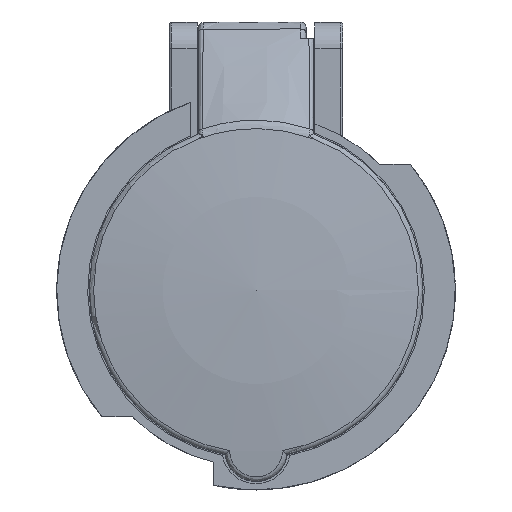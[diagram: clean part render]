
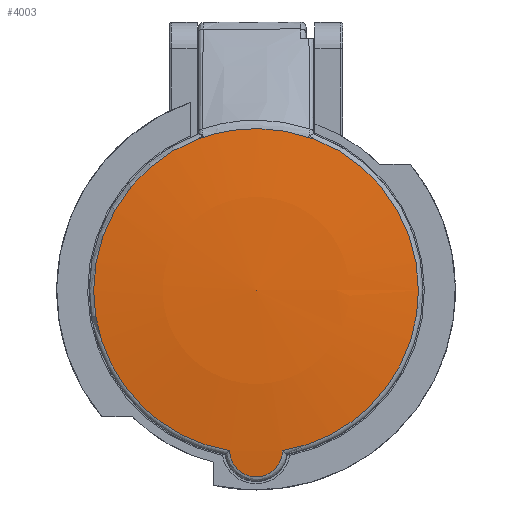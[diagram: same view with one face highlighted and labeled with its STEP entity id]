
A CAD part, top view. The second image highlights one B-rep face of the part: STEP entity #4003.
In plain terms, the highlighted spherical face has radius 253.016 mm.
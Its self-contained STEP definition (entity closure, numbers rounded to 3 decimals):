
#3593 = VERTEX_POINT('',#3594);
#3594 = CARTESIAN_POINT('',(-11.002,28.819,
    51.112));
#3601 = EDGE_CURVE('',#3602,#3593,#3604,.T.);
#3602 = VERTEX_POINT('',#3603);
#3603 = CARTESIAN_POINT('',(11.002,28.819,
    51.112));
#3604 = B_SPLINE_CURVE_WITH_KNOTS('',3,(#3605,#3606,#3607,#3608,#3609,
    #3610,#3611,#3612,#3613,#3614,#3615,#3616,#3617,#3618,#3619,#3620,
    #3621,#3622,#3623,#3624,#3625,#3626,#3627,#3628,#3629,#3630,#3631,
    #3632,#3633,#3634,#3635,#3636,#3637,#3638,#3639,#3640,#3641,#3642,
    #3643,#3644,#3645,#3646,#3647,#3648,#3649,#3650,#3651,#3652,#3653,
    #3654,#3655,#3656,#3657,#3658,#3659,#3660,#3661,#3662),
  .UNSPECIFIED.,.F.,.F.,(4,2,2,2,1,2,2,2,2,2,2,2,2,1,1,2,2,2,2,2,2,2,2,1
    ,2,2,2,2,2,2,4),(0.,0.125,0.188,0.219,0.234,0.242,0.25,
    0.281,0.297,0.305,0.313,0.375,0.438,0.469,0.484,
    0.492,0.5,0.531,0.547,0.563,0.594,0.609,0.625,0.656
    ,0.672,0.688,0.719,0.734,0.742,0.75,1.),.UNSPECIFIED.);
#3605 = CARTESIAN_POINT('',(11.002,28.819,
    51.112));
#3606 = CARTESIAN_POINT('',(10.288,29.089,
    51.113));
#3607 = CARTESIAN_POINT('',(9.205,29.427,
    51.116));
#3608 = CARTESIAN_POINT('',(8.04,29.731,
    51.119));
#3609 = CARTESIAN_POINT('',(7.621,29.836,
    51.12));
#3610 = CARTESIAN_POINT('',(6.943,29.991,
    51.12));
#3611 = CARTESIAN_POINT('',(6.708,30.043,
    51.121));
#3612 = CARTESIAN_POINT('',(6.345,30.119,
    51.121));
#3613 = CARTESIAN_POINT('',(6.16,30.157,
    51.121));
#3614 = CARTESIAN_POINT('',(5.971,30.195,
    51.121));
#3615 = CARTESIAN_POINT('',(5.843,30.219,
    51.121));
#3616 = CARTESIAN_POINT('',(5.743,30.238,51.121
    ));
#3617 = CARTESIAN_POINT('',(5.6,30.266,
    51.121));
#3618 = CARTESIAN_POINT('',(5.427,30.298,
    51.121));
#3619 = CARTESIAN_POINT('',(5.078,30.358,
    51.121));
#3620 = CARTESIAN_POINT('',(4.947,30.38,
    51.121));
#3621 = CARTESIAN_POINT('',(4.728,30.415,
    51.121));
#3622 = CARTESIAN_POINT('',(4.652,30.427,
    51.121));
#3623 = CARTESIAN_POINT('',(4.491,30.452,
    51.121));
#3624 = CARTESIAN_POINT('',(4.378,30.469,
    51.121));
#3625 = CARTESIAN_POINT('',(3.847,30.545,
    51.12));
#3626 = CARTESIAN_POINT('',(3.382,30.601,
    51.12));
#3627 = CARTESIAN_POINT('',(2.439,30.69,
    51.12));
#3628 = CARTESIAN_POINT('',(1.966,30.723,
    51.121));
#3629 = CARTESIAN_POINT('',(1.257,30.757,
    51.121));
#3630 = CARTESIAN_POINT('',(0.902,30.77,
    51.121));
#3631 = CARTESIAN_POINT('',(0.488,30.777,
    51.121));
#3632 = CARTESIAN_POINT('',(0.31,30.779,
    51.121));
#3633 = CARTESIAN_POINT('',(0.192,30.78,
    51.121));
#3634 = CARTESIAN_POINT('',(0.092,30.78,
    51.121));
#3635 = CARTESIAN_POINT('',(-0.003,30.78,
    51.121));
#3636 = CARTESIAN_POINT('',(-0.16,30.78,
    51.121));
#3637 = CARTESIAN_POINT('',(-0.516,30.776,
    51.121));
#3638 = CARTESIAN_POINT('',(-0.654,30.774,
    51.121));
#3639 = CARTESIAN_POINT('',(-0.971,30.766,
    51.121));
#3640 = CARTESIAN_POINT('',(-1.186,30.759,
    51.121));
#3641 = CARTESIAN_POINT('',(-1.674,30.738,
    51.121));
#3642 = CARTESIAN_POINT('',(-1.955,30.721,
    51.121));
#3643 = CARTESIAN_POINT('',(-2.31,30.696,
    51.12));
#3644 = CARTESIAN_POINT('',(-2.418,30.688,
    51.12));
#3645 = CARTESIAN_POINT('',(-2.61,30.672,
    51.12));
#3646 = CARTESIAN_POINT('',(-2.654,30.668,
    51.12));
#3647 = CARTESIAN_POINT('',(-3.001,30.637,
    51.12));
#3648 = CARTESIAN_POINT('',(-3.352,30.601,
    51.12));
#3649 = CARTESIAN_POINT('',(-3.709,30.558,
    51.121));
#3650 = CARTESIAN_POINT('',(-3.948,30.528,
    51.121));
#3651 = CARTESIAN_POINT('',(-4.014,30.519,
    51.121));
#3652 = CARTESIAN_POINT('',(-4.538,30.446,
    51.121));
#3653 = CARTESIAN_POINT('',(-4.829,30.399,
    51.121));
#3654 = CARTESIAN_POINT('',(-5.182,30.34,
    51.121));
#3655 = CARTESIAN_POINT('',(-5.285,30.322,
    51.121));
#3656 = CARTESIAN_POINT('',(-5.419,30.298,
    51.121));
#3657 = CARTESIAN_POINT('',(-5.461,30.291,
    51.121));
#3658 = CARTESIAN_POINT('',(-5.536,30.277,
    51.121));
#3659 = CARTESIAN_POINT('',(-5.541,30.276,
    51.121));
#3660 = CARTESIAN_POINT('',(-7.513,29.911,
    51.121));
#3661 = CARTESIAN_POINT('',(-9.273,29.473,
    51.113));
#3662 = CARTESIAN_POINT('',(-11.002,28.819,
    51.112));
#3727 = EDGE_CURVE('',#3602,#3728,#3730,.T.);
#3728 = VERTEX_POINT('',#3729);
#3729 = CARTESIAN_POINT('',(30.872,0.,51.109));
#3730 = CIRCLE('',#3731,30.872);
#3731 = AXIS2_PLACEMENT_3D('',#3732,#3733,#3734);
#3732 = CARTESIAN_POINT('',(0.,0.,51.109));
#3733 = DIRECTION('',(0.,0.,-1.));
#3734 = DIRECTION('',(0.357,0.934,0.));
#3736 = EDGE_CURVE('',#3728,#3737,#3739,.T.);
#3737 = VERTEX_POINT('',#3738);
#3738 = CARTESIAN_POINT('',(5.02,-30.461,
    51.109));
#3739 = CIRCLE('',#3740,30.872);
#3740 = AXIS2_PLACEMENT_3D('',#3741,#3742,#3743);
#3741 = CARTESIAN_POINT('',(0.,0.,51.109));
#3742 = DIRECTION('',(0.,0.,-1.));
#3743 = DIRECTION('',(1.,0.,0.));
#3898 = VERTEX_POINT('',#3899);
#3899 = CARTESIAN_POINT('',(-5.02,-30.461,
    51.109));
#3914 = EDGE_CURVE('',#3898,#3737,#3915,.T.);
#3915 = B_SPLINE_CURVE_WITH_KNOTS('',3,(#3916,#3917,#3918,#3919,#3920,
    #3921,#3922,#3923,#3924,#3925),.UNSPECIFIED.,.F.,.F.,(4,2,2,2,4),(0.
    ,0.25,0.5,0.75,1.),.UNSPECIFIED.);
#3916 = CARTESIAN_POINT('',(-5.02,-30.461,
    51.109));
#3917 = CARTESIAN_POINT('',(-5.009,-31.735,
    50.955));
#3918 = CARTESIAN_POINT('',(-4.47,-33.056,
    50.795));
#3919 = CARTESIAN_POINT('',(-2.603,-34.91,
    50.57));
#3920 = CARTESIAN_POINT('',(-1.306,-35.44,
    50.506));
#3921 = CARTESIAN_POINT('',(1.309,-35.44,
    50.506));
#3922 = CARTESIAN_POINT('',(2.595,-34.917,
    50.569));
#3923 = CARTESIAN_POINT('',(4.478,-33.048,
    50.796));
#3924 = CARTESIAN_POINT('',(5.009,-31.734,
    50.955));
#3925 = CARTESIAN_POINT('',(5.02,-30.461,
    51.109));
#4003 = ADVANCED_FACE('',(#4004),#4037,.T.);
#4004 = FACE_BOUND('',#4005,.T.);
#4005 = EDGE_LOOP('',(#4006,#4007,#4008,#4017,#4024,#4025,#4026,#4036));
#4006 = ORIENTED_EDGE('',*,*,#3727,.F.);
#4007 = ORIENTED_EDGE('',*,*,#3601,.T.);
#4008 = ORIENTED_EDGE('',*,*,#4009,.F.);
#4009 = EDGE_CURVE('',#4010,#3593,#4012,.T.);
#4010 = VERTEX_POINT('',#4011);
#4011 = CARTESIAN_POINT('',(-30.872,0.,
    51.109));
#4012 = CIRCLE('',#4013,30.872);
#4013 = AXIS2_PLACEMENT_3D('',#4014,#4015,#4016);
#4014 = CARTESIAN_POINT('',(0.,0.,51.109));
#4015 = DIRECTION('',(0.,0.,-1.));
#4016 = DIRECTION('',(-1.,0.,0.));
#4017 = ORIENTED_EDGE('',*,*,#4018,.F.);
#4018 = EDGE_CURVE('',#3898,#4010,#4019,.T.);
#4019 = CIRCLE('',#4020,30.872);
#4020 = AXIS2_PLACEMENT_3D('',#4021,#4022,#4023);
#4021 = CARTESIAN_POINT('',(0.,0.,51.109));
#4022 = DIRECTION('',(0.,0.,-1.));
#4023 = DIRECTION('',(-0.163,-0.987,-0.));
#4024 = ORIENTED_EDGE('',*,*,#3914,.T.);
#4025 = ORIENTED_EDGE('',*,*,#3736,.F.);
#4026 = ORIENTED_EDGE('',*,*,#4027,.F.);
#4027 = EDGE_CURVE('',#4028,#3728,#4030,.T.);
#4028 = VERTEX_POINT('',#4029);
#4029 = CARTESIAN_POINT('',(0.,0.,53.));
#4030 = B_SPLINE_CURVE_WITH_KNOTS('',4,(#4031,#4032,#4033,#4034,#4035),
  .UNSPECIFIED.,.F.,.F.,(5,5),(-1.571,-1.448),
  .PIECEWISE_BEZIER_KNOTS.);
#4031 = CARTESIAN_POINT('',(0.,0.,53.)
  );
#4032 = CARTESIAN_POINT('',(7.737,0.,53.));
#4033 = CARTESIAN_POINT('',(15.475,0.,
    52.685));
#4034 = CARTESIAN_POINT('',(23.193,0.,
    52.054));
#4035 = CARTESIAN_POINT('',(30.872,0.,
    51.109));
#4036 = ORIENTED_EDGE('',*,*,#4027,.T.);
#4037 = SPHERICAL_SURFACE('',#4038,253.016);
#4038 = AXIS2_PLACEMENT_3D('',#4039,#4040,#4041);
#4039 = CARTESIAN_POINT('',(0.,0.,-200.016));
#4040 = DIRECTION('',(0.,0.,-1.));
#4041 = DIRECTION('',(1.,0.,0.));
